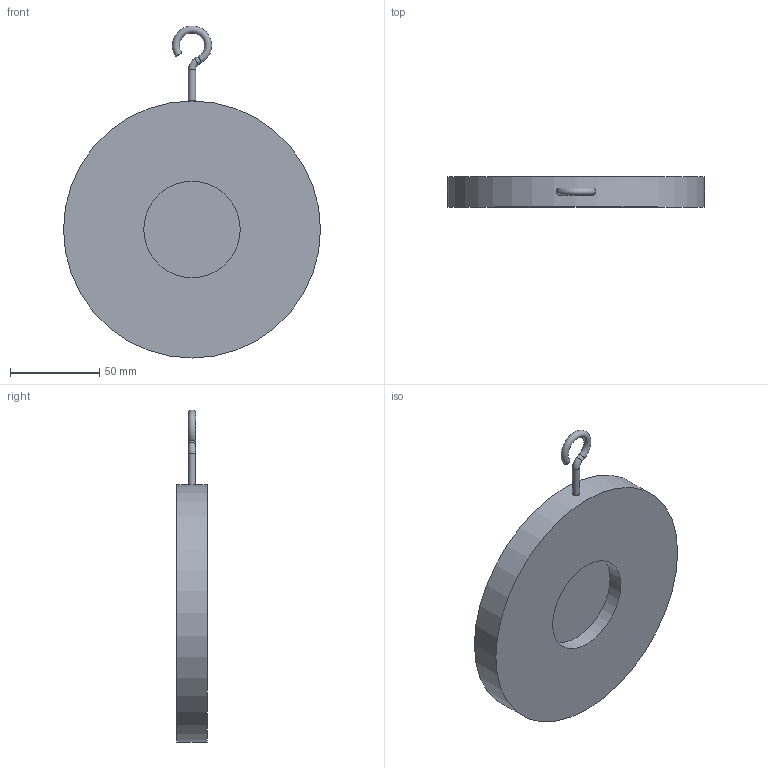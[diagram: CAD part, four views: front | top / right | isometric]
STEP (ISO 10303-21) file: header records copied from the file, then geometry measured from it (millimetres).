
FILE_DESCRIPTION(('STEP AP203'), '1');
FILE_NAME('孰囡囗 钺疣蝽 钿眍耱忸瘅囹 戾骠豚眦邂 008C DN80', '', ('UNSPECIFIED'), ('UNSPECIFIED'), 'ASCON STEP Converter 1.6', 'ASCON Math Kernel', '');
FILE_SCHEMA(('CONFIG_CONTROL_DESIGN'));
Length unit declared in the file: millimetre
Bounding box: 144 x 17 x 186 mm (x, y, z)
Volume: 233145.4 mm3; surface area: 45293.6 mm2
Topology: 1 solids, 1 shells, 15 faces, 30 edges, 19 vertices
Faces by surface type: plane 7, cylinder 5, torus 2, cone 1
Full cylindrical faces by diameter (mm): 4 x2, 54 x1, 144 x1
Entity records: 710 total; most frequent: CARTESIAN_POINT 266, DIRECTION 62, ORIENTED_EDGE 46, AXIS2_PLACEMENT_3D 28, EDGE_LOOP 24, EDGE_CURVE 23, VERTEX_POINT 19, COLOUR_RGB 16
